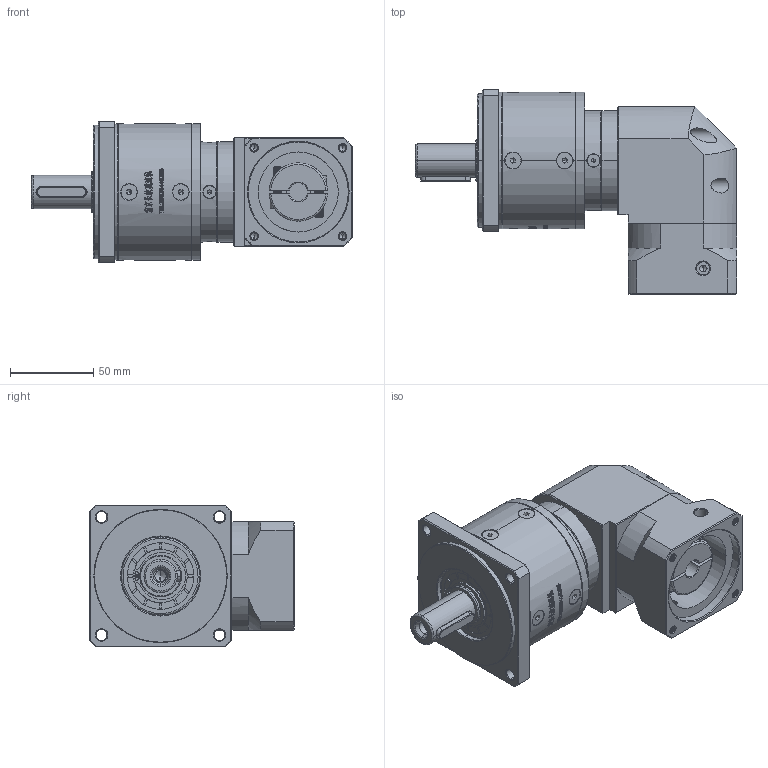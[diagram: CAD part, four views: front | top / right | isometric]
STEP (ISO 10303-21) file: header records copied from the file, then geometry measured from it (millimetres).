
FILE_DESCRIPTION (( 'STEP AP214' ), '1' );
FILE_NAME ('ZFR80-D20-L2-11-60-75-M5.step', '2022-05-08T14:48:40', ( '' ), ( 'Microsoft' ), 'SwSTEP 2.0', 'SolidWorks 2016', '' );
FILE_SCHEMA (( 'AUTOMOTIVE_DESIGN' ));
Length unit declared in the file: millimetre
Products named in the file (1): ZFR80-D20-L2-11-60-75-M5
Bounding box: 192.5 x 122.7 x 85 mm (x, y, z)
Volume: 800237.7 mm3; surface area: 104091.4 mm2
Topology: 17 solids, 18 shells, 3078 faces, 8181 edges, 5260 vertices
Faces by surface type: plane 1601, bspline 620, cylinder 468, cone 381, torus 8
Entity records: 165866 total; most frequent: CARTESIAN_POINT 60931, ORIENTED_EDGE 16270, DIRECTION 12347, EDGE_CURVE 8135, VERTEX_POINT 5260, LINE 4989, VECTOR 4989, AXIS2_PLACEMENT_3D 3679
